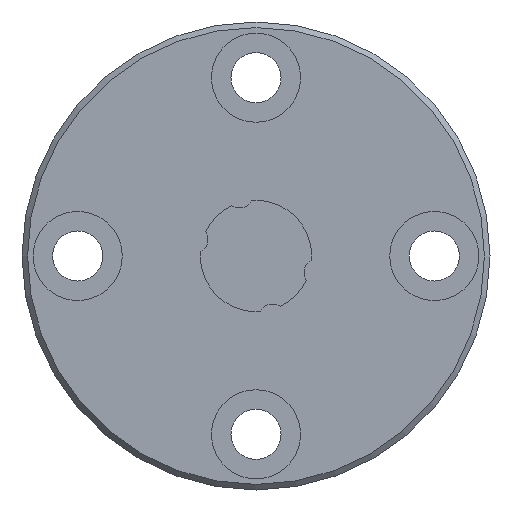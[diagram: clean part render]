
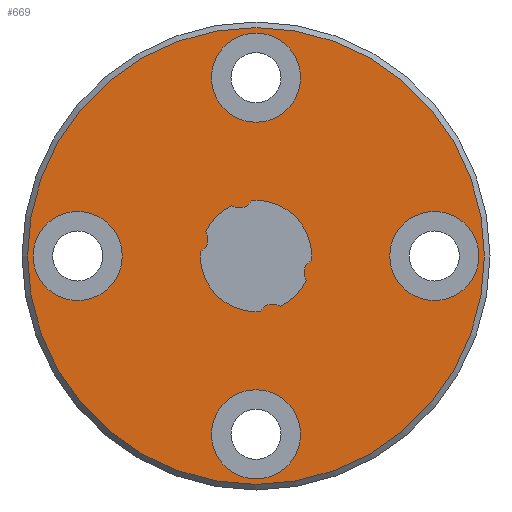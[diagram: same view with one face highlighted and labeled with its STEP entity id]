
A CAD part, left-side view. The second image highlights one B-rep face of the part: STEP entity #669.
In plain terms, the highlighted planar face has unit normal (-1, 0, 0).
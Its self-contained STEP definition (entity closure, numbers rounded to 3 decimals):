
#44=PLANE('',#757);
#135=ORIENTED_EDGE('',*,*,#279,.F.);
#136=ORIENTED_EDGE('',*,*,#280,.F.);
#137=ORIENTED_EDGE('',*,*,#281,.F.);
#138=ORIENTED_EDGE('',*,*,#282,.F.);
#139=ORIENTED_EDGE('',*,*,#283,.F.);
#140=ORIENTED_EDGE('',*,*,#284,.T.);
#141=ORIENTED_EDGE('',*,*,#285,.F.);
#142=ORIENTED_EDGE('',*,*,#286,.T.);
#143=ORIENTED_EDGE('',*,*,#287,.F.);
#144=ORIENTED_EDGE('',*,*,#288,.T.);
#145=ORIENTED_EDGE('',*,*,#289,.F.);
#146=ORIENTED_EDGE('',*,*,#290,.T.);
#147=ORIENTED_EDGE('',*,*,#291,.F.);
#279=EDGE_CURVE('',#355,#355,#421,.T.);
#280=EDGE_CURVE('',#356,#356,#422,.F.);
#281=EDGE_CURVE('',#357,#357,#423,.F.);
#282=EDGE_CURVE('',#358,#358,#424,.F.);
#283=EDGE_CURVE('',#359,#359,#425,.F.);
#284=EDGE_CURVE('',#360,#361,#426,.T.);
#285=EDGE_CURVE('',#362,#361,#427,.T.);
#286=EDGE_CURVE('',#362,#363,#428,.T.);
#287=EDGE_CURVE('',#364,#363,#429,.T.);
#288=EDGE_CURVE('',#364,#365,#430,.T.);
#289=EDGE_CURVE('',#366,#365,#431,.T.);
#290=EDGE_CURVE('',#366,#367,#432,.T.);
#291=EDGE_CURVE('',#360,#367,#433,.T.);
#355=VERTEX_POINT('',#1125);
#356=VERTEX_POINT('',#1127);
#357=VERTEX_POINT('',#1129);
#358=VERTEX_POINT('',#1131);
#359=VERTEX_POINT('',#1133);
#360=VERTEX_POINT('',#1135);
#361=VERTEX_POINT('',#1136);
#362=VERTEX_POINT('',#1138);
#363=VERTEX_POINT('',#1140);
#364=VERTEX_POINT('',#1142);
#365=VERTEX_POINT('',#1144);
#366=VERTEX_POINT('',#1146);
#367=VERTEX_POINT('',#1148);
#421=CIRCLE('',#758,20.5);
#422=CIRCLE('',#759,4.);
#423=CIRCLE('',#760,4.);
#424=CIRCLE('',#761,4.);
#425=CIRCLE('',#762,4.);
#426=CIRCLE('',#763,5.);
#427=CIRCLE('',#764,1.24);
#428=CIRCLE('',#765,5.);
#429=CIRCLE('',#766,1.24);
#430=CIRCLE('',#767,5.);
#431=CIRCLE('',#768,1.24);
#432=CIRCLE('',#769,5.);
#433=CIRCLE('',#770,1.24);
#475=EDGE_LOOP('',(#135));
#476=EDGE_LOOP('',(#136));
#477=EDGE_LOOP('',(#137));
#478=EDGE_LOOP('',(#138));
#479=EDGE_LOOP('',(#139));
#480=EDGE_LOOP('',(#140,#141,#142,#143,#144,#145,#146,#147));
#557=FACE_BOUND('',#475,.T.);
#558=FACE_BOUND('',#476,.T.);
#559=FACE_BOUND('',#477,.T.);
#560=FACE_BOUND('',#478,.T.);
#561=FACE_BOUND('',#479,.T.);
#562=FACE_BOUND('',#480,.T.);
#669=ADVANCED_FACE('',(#557,#558,#559,#560,#561,#562),#44,.F.);
#757=AXIS2_PLACEMENT_3D('',#1123,#901,#902);
#758=AXIS2_PLACEMENT_3D('',#1124,#903,#904);
#759=AXIS2_PLACEMENT_3D('',#1126,#905,#906);
#760=AXIS2_PLACEMENT_3D('',#1128,#907,#908);
#761=AXIS2_PLACEMENT_3D('',#1130,#909,#910);
#762=AXIS2_PLACEMENT_3D('',#1132,#911,#912);
#763=AXIS2_PLACEMENT_3D('',#1134,#913,#914);
#764=AXIS2_PLACEMENT_3D('',#1137,#915,#916);
#765=AXIS2_PLACEMENT_3D('',#1139,#917,#918);
#766=AXIS2_PLACEMENT_3D('',#1141,#919,#920);
#767=AXIS2_PLACEMENT_3D('',#1143,#921,#922);
#768=AXIS2_PLACEMENT_3D('',#1145,#923,#924);
#769=AXIS2_PLACEMENT_3D('',#1147,#925,#926);
#770=AXIS2_PLACEMENT_3D('',#1149,#927,#928);
#901=DIRECTION('',(1.,0.,0.));
#902=DIRECTION('',(0.,0.,-1.));
#903=DIRECTION('',(1.,0.,0.));
#904=DIRECTION('',(0.,0.,-1.));
#905=DIRECTION('',(1.,0.,0.));
#906=DIRECTION('',(0.,0.,-1.));
#907=DIRECTION('',(1.,0.,0.));
#908=DIRECTION('',(0.,0.,-1.));
#909=DIRECTION('',(1.,0.,0.));
#910=DIRECTION('',(0.,0.,-1.));
#911=DIRECTION('',(1.,0.,0.));
#912=DIRECTION('',(0.,0.,-1.));
#913=DIRECTION('',(1.,0.,0.));
#914=DIRECTION('',(0.,0.,-1.));
#915=DIRECTION('',(1.,0.,0.));
#916=DIRECTION('',(0.,0.,-1.));
#917=DIRECTION('',(1.,0.,0.));
#918=DIRECTION('',(0.,0.,-1.));
#919=DIRECTION('',(1.,0.,0.));
#920=DIRECTION('',(0.,0.,-1.));
#921=DIRECTION('',(1.,0.,0.));
#922=DIRECTION('',(0.,0.,-1.));
#923=DIRECTION('',(1.,0.,0.));
#924=DIRECTION('',(0.,0.,-1.));
#925=DIRECTION('',(1.,0.,0.));
#926=DIRECTION('',(0.,0.,-1.));
#927=DIRECTION('',(1.,0.,0.));
#928=DIRECTION('',(0.,0.,-1.));
#1123=CARTESIAN_POINT('',(0.,0.,0.));
#1124=CARTESIAN_POINT('',(0.,0.,0.));
#1125=CARTESIAN_POINT('',(0.,0.,-20.5));
#1126=CARTESIAN_POINT('',(0.,16.,0.));
#1127=CARTESIAN_POINT('',(0.,16.,-4.));
#1128=CARTESIAN_POINT('',(0.,0.,-16.));
#1129=CARTESIAN_POINT('',(0.,0.,-20.));
#1130=CARTESIAN_POINT('',(0.,0.,16.));
#1131=CARTESIAN_POINT('',(0.,0.,12.));
#1132=CARTESIAN_POINT('',(0.,-16.,0.));
#1133=CARTESIAN_POINT('',(0.,-16.,-4.));
#1134=CARTESIAN_POINT('',(0.,0.,0.));
#1135=CARTESIAN_POINT('',(0.,4.51,2.158));
#1136=CARTESIAN_POINT('',(0.,2.158,4.51));
#1137=CARTESIAN_POINT('',(0.,1.488,5.554));
#1138=CARTESIAN_POINT('',(0.,0.386,4.985));
#1139=CARTESIAN_POINT('',(0.,0.,0.));
#1140=CARTESIAN_POINT('',(0.,-4.985,-0.386));
#1141=CARTESIAN_POINT('',(0.,-5.554,-1.488));
#1142=CARTESIAN_POINT('',(0.,-4.51,-2.158));
#1143=CARTESIAN_POINT('',(0.,0.,0.));
#1144=CARTESIAN_POINT('',(0.,-2.158,-4.51));
#1145=CARTESIAN_POINT('',(0.,-1.488,-5.554));
#1146=CARTESIAN_POINT('',(0.,-0.386,-4.985));
#1147=CARTESIAN_POINT('',(0.,0.,0.));
#1148=CARTESIAN_POINT('',(0.,4.985,0.386));
#1149=CARTESIAN_POINT('',(0.,5.554,1.488));
